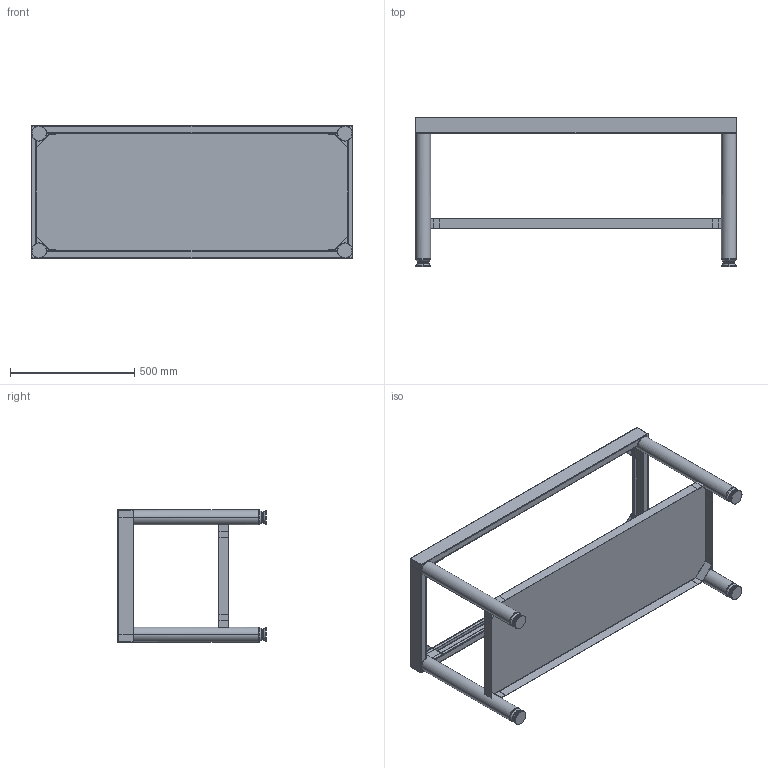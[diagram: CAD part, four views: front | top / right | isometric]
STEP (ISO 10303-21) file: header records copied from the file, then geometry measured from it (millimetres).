
FILE_DESCRIPTION((''),'2;1');
FILE_NAME('SSK1300_EXPORT_STEP','2017-11-23T',('r.avril'),(''),'PRO/ENGINEER BY PARAMETRIC TECHNOLOGY CORPORATION, 2014200','PRO/ENGINEER BY PARAMETRIC TECHNOLOGY CORPORATION, 2014200','');
FILE_SCHEMA(('AP203_CONFIGURATION_CONTROLLED_3D_DESIGN_OF_MECHANICAL_PARTS_AND_ASSEMBLIES_MIM_LF { 1 0 10303 403 2 1 2 }'));
Length unit declared in the file: millimetre
Products named in the file (1): SSK1300_EXPORT_STEP
Bounding box: 1295 x 600 x 535 mm (x, y, z)
Volume: 2684725.8 mm3; surface area: 3486604.1 mm2
Topology: 14 solids, 14 shells, 371 faces, 928 edges, 576 vertices
Faces by surface type: plane 235, cylinder 88, torus 24, cone 16, sphere 8
Entity records: 12128 total; most frequent: CARTESIAN_POINT 2143, DIRECTION 1929, ORIENTED_EDGE 1856, EDGE_CURVE 928, AXIS2_PLACEMENT_3D 671, VECTOR 584, LINE 584, VERTEX_POINT 576
